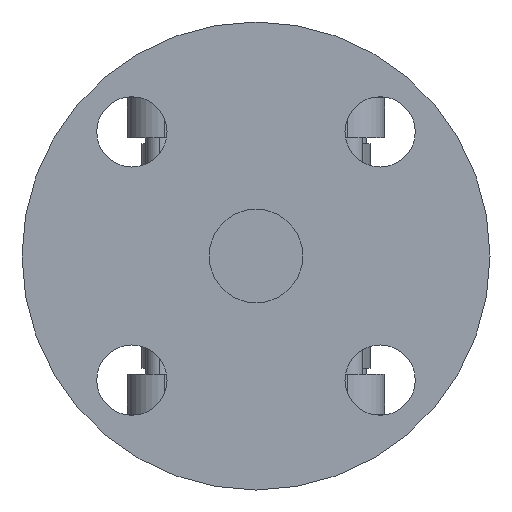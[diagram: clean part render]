
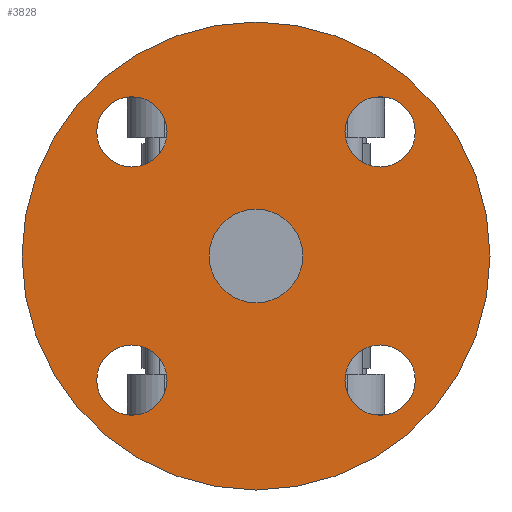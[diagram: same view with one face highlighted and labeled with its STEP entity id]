
A CAD part, left-side view. The second image highlights one B-rep face of the part: STEP entity #3828.
In plain terms, the highlighted planar face has unit normal (-1, 0, 0).
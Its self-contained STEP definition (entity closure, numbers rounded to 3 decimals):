
#60 = EDGE_CURVE ( 'NONE', #1762, #4366, #571, .T. ) ;
#84 = AXIS2_PLACEMENT_3D ( 'NONE', #4827, #1047, #4385 ) ;
#120 = VERTEX_POINT ( 'NONE', #2300 ) ;
#164 = CIRCLE ( 'NONE', #3720, 7.5 ) ;
#225 = EDGE_CURVE ( 'NONE', #1792, #4310, #5246, .T. ) ;
#267 = AXIS2_PLACEMENT_3D ( 'NONE', #2220, #1325, #776 ) ;
#376 = CARTESIAN_POINT ( 'NONE',  ( -65., 26.517, 26.517 ) ) ;
#474 = VERTEX_POINT ( 'NONE', #5769 ) ;
#480 = EDGE_LOOP ( 'NONE', ( #4302, #616 ) ) ;
#534 = VERTEX_POINT ( 'NONE', #1393 ) ;
#571 = CIRCLE ( 'NONE', #5743, 50. ) ;
#594 = EDGE_CURVE ( 'NONE', #534, #3061, #2411, .T. ) ;
#616 = ORIENTED_EDGE ( 'NONE', *, *, #594, .F. ) ;
#632 = DIRECTION ( 'NONE',  ( 0., -1., 0. ) ) ;
#659 = AXIS2_PLACEMENT_3D ( 'NONE', #1593, #5977, #632 ) ;
#663 = DIRECTION ( 'NONE',  ( 0., -1., 0. ) ) ;
#767 = CIRCLE ( 'NONE', #267, 7.5 ) ;
#776 = DIRECTION ( 'NONE',  ( 0., 0., -1. ) ) ;
#786 = EDGE_CURVE ( 'NONE', #4366, #1762, #5049, .T. ) ;
#1047 = DIRECTION ( 'NONE',  ( -1., 0., 0. ) ) ;
#1125 = ORIENTED_EDGE ( 'NONE', *, *, #60, .T. ) ;
#1143 = DIRECTION ( 'NONE',  ( -1., 0., 0. ) ) ;
#1202 = CARTESIAN_POINT ( 'NONE',  ( -65., 0., 0. ) ) ;
#1325 = DIRECTION ( 'NONE',  ( -1., 0., 0. ) ) ;
#1338 = CARTESIAN_POINT ( 'NONE',  ( -65., 19.017, -26.517 ) ) ;
#1365 = CARTESIAN_POINT ( 'NONE',  ( -65., -50., 0. ) ) ;
#1371 = AXIS2_PLACEMENT_3D ( 'NONE', #2480, #3567, #663 ) ;
#1393 = CARTESIAN_POINT ( 'NONE',  ( -65., -19.017, 26.517 ) ) ;
#1438 = ORIENTED_EDGE ( 'NONE', *, *, #786, .T. ) ;
#1441 = EDGE_CURVE ( 'NONE', #4310, #1792, #5259, .T. ) ;
#1457 = VERTEX_POINT ( 'NONE', #2981 ) ;
#1474 = EDGE_LOOP ( 'NONE', ( #3999, #1836 ) ) ;
#1544 = ORIENTED_EDGE ( 'NONE', *, *, #225, .F. ) ;
#1593 = CARTESIAN_POINT ( 'NONE',  ( -65., 26.517, -26.517 ) ) ;
#1661 = DIRECTION ( 'NONE',  ( -1., 0., 0. ) ) ;
#1753 = CARTESIAN_POINT ( 'NONE',  ( -65., 0., 0. ) ) ;
#1762 = VERTEX_POINT ( 'NONE', #1365 ) ;
#1792 = VERTEX_POINT ( 'NONE', #4000 ) ;
#1836 = ORIENTED_EDGE ( 'NONE', *, *, #5210, .F. ) ;
#1848 = CARTESIAN_POINT ( 'NONE',  ( -65., -26.517, 26.517 ) ) ;
#1888 = AXIS2_PLACEMENT_3D ( 'NONE', #1202, #5924, #5009 ) ;
#2057 = FACE_BOUND ( 'NONE', #480, .T. ) ;
#2215 = AXIS2_PLACEMENT_3D ( 'NONE', #3332, #3930, #4846 ) ;
#2220 = CARTESIAN_POINT ( 'NONE',  ( -65., 26.517, 26.517 ) ) ;
#2300 = CARTESIAN_POINT ( 'NONE',  ( -65., 34.017, 26.517 ) ) ;
#2319 = DIRECTION ( 'NONE',  ( -1., 0., 0. ) ) ;
#2376 = EDGE_LOOP ( 'NONE', ( #4447, #3897 ) ) ;
#2395 = DIRECTION ( 'NONE',  ( 0., 0., 1. ) ) ;
#2411 = CIRCLE ( 'NONE', #2215, 7.5 ) ;
#2480 = CARTESIAN_POINT ( 'NONE',  ( -65., 26.517, -26.517 ) ) ;
#2522 = CIRCLE ( 'NONE', #5056, 7.5 ) ;
#2551 = DIRECTION ( 'NONE',  ( 0., -1., 0. ) ) ;
#2573 = EDGE_CURVE ( 'NONE', #5973, #474, #4517, .T. ) ;
#2616 = DIRECTION ( 'NONE',  ( 0., -1., 0. ) ) ;
#2624 = EDGE_CURVE ( 'NONE', #474, #5973, #3906, .T. ) ;
#2952 = CARTESIAN_POINT ( 'NONE',  ( -65., 0., 0. ) ) ;
#2966 = VERTEX_POINT ( 'NONE', #4299 ) ;
#2981 = CARTESIAN_POINT ( 'NONE',  ( -65., -34.017, -26.517 ) ) ;
#3061 = VERTEX_POINT ( 'NONE', #4557 ) ;
#3132 = ORIENTED_EDGE ( 'NONE', *, *, #4678, .F. ) ;
#3136 = DIRECTION ( 'NONE',  ( 0., -1., 0. ) ) ;
#3293 = DIRECTION ( 'NONE',  ( 0., 0., -1. ) ) ;
#3332 = CARTESIAN_POINT ( 'NONE',  ( -65., -26.517, 26.517 ) ) ;
#3388 = CARTESIAN_POINT ( 'NONE',  ( -65., 19.017, 26.517 ) ) ;
#3522 = FACE_BOUND ( 'NONE', #1474, .T. ) ;
#3542 = AXIS2_PLACEMENT_3D ( 'NONE', #2952, #4889, #2551 ) ;
#3567 = DIRECTION ( 'NONE',  ( -1., 0., 0. ) ) ;
#3612 = CARTESIAN_POINT ( 'NONE',  ( -65., 0., 0. ) ) ;
#3720 = AXIS2_PLACEMENT_3D ( 'NONE', #376, #2319, #3293 ) ;
#3825 = AXIS2_PLACEMENT_3D ( 'NONE', #6029, #1143, #4952 ) ;
#3828 = ADVANCED_FACE ( 'NONE', ( #4473, #2057, #3522, #4092, #5555, #3997 ), #5492, .F. ) ;
#3897 = ORIENTED_EDGE ( 'NONE', *, *, #2624, .F. ) ;
#3906 = CIRCLE ( 'NONE', #1371, 7.5 ) ;
#3930 = DIRECTION ( 'NONE',  ( -1., 0., 0. ) ) ;
#3997 = FACE_OUTER_BOUND ( 'NONE', #6210, .T. ) ;
#3999 = ORIENTED_EDGE ( 'NONE', *, *, #5586, .F. ) ;
#4000 = CARTESIAN_POINT ( 'NONE',  ( -65., 10., 0. ) ) ;
#4032 = AXIS2_PLACEMENT_3D ( 'NONE', #4801, #4392, #2395 ) ;
#4092 = FACE_BOUND ( 'NONE', #2376, .T. ) ;
#4293 = DIRECTION ( 'NONE',  ( 0., 1., 0. ) ) ;
#4299 = CARTESIAN_POINT ( 'NONE',  ( -65., -19.017, -26.517 ) ) ;
#4302 = ORIENTED_EDGE ( 'NONE', *, *, #5459, .F. ) ;
#4310 = VERTEX_POINT ( 'NONE', #4798 ) ;
#4366 = VERTEX_POINT ( 'NONE', #4927 ) ;
#4385 = DIRECTION ( 'NONE',  ( 0., 0., 1. ) ) ;
#4392 = DIRECTION ( 'NONE',  ( -1., 0., 0. ) ) ;
#4447 = ORIENTED_EDGE ( 'NONE', *, *, #2573, .F. ) ;
#4454 = EDGE_CURVE ( 'NONE', #120, #4768, #767, .T. ) ;
#4473 = FACE_BOUND ( 'NONE', #5015, .T. ) ;
#4517 = CIRCLE ( 'NONE', #659, 7.5 ) ;
#4557 = CARTESIAN_POINT ( 'NONE',  ( -65., -34.017, 26.517 ) ) ;
#4678 = EDGE_CURVE ( 'NONE', #4768, #120, #164, .T. ) ;
#4730 = CIRCLE ( 'NONE', #4032, 7.5 ) ;
#4768 = VERTEX_POINT ( 'NONE', #3388 ) ;
#4798 = CARTESIAN_POINT ( 'NONE',  ( -65., -10., 0. ) ) ;
#4801 = CARTESIAN_POINT ( 'NONE',  ( -65., -26.517, -26.517 ) ) ;
#4827 = CARTESIAN_POINT ( 'NONE',  ( -65., -26.517, -26.517 ) ) ;
#4846 = DIRECTION ( 'NONE',  ( 0., 1., 0. ) ) ;
#4889 = DIRECTION ( 'NONE',  ( -1., 0., 0. ) ) ;
#4927 = CARTESIAN_POINT ( 'NONE',  ( -65., 50., 0. ) ) ;
#4929 = EDGE_LOOP ( 'NONE', ( #5263, #1544 ) ) ;
#4952 = DIRECTION ( 'NONE',  ( 0., -1., 0. ) ) ;
#5009 = DIRECTION ( 'NONE',  ( 0., 1., 0. ) ) ;
#5015 = EDGE_LOOP ( 'NONE', ( #3132, #6090 ) ) ;
#5049 = CIRCLE ( 'NONE', #5852, 50. ) ;
#5056 = AXIS2_PLACEMENT_3D ( 'NONE', #1848, #5603, #4293 ) ;
#5210 = EDGE_CURVE ( 'NONE', #2966, #1457, #4730, .T. ) ;
#5246 = CIRCLE ( 'NONE', #3825, 10. ) ;
#5259 = CIRCLE ( 'NONE', #3542, 10. ) ;
#5263 = ORIENTED_EDGE ( 'NONE', *, *, #1441, .F. ) ;
#5366 = CIRCLE ( 'NONE', #84, 7.5 ) ;
#5459 = EDGE_CURVE ( 'NONE', #3061, #534, #2522, .T. ) ;
#5492 = PLANE ( 'NONE',  #1888 ) ;
#5554 = DIRECTION ( 'NONE',  ( -1., 0., 0. ) ) ;
#5555 = FACE_BOUND ( 'NONE', #4929, .T. ) ;
#5586 = EDGE_CURVE ( 'NONE', #1457, #2966, #5366, .T. ) ;
#5603 = DIRECTION ( 'NONE',  ( -1., 0., 0. ) ) ;
#5743 = AXIS2_PLACEMENT_3D ( 'NONE', #1753, #1661, #2616 ) ;
#5769 = CARTESIAN_POINT ( 'NONE',  ( -65., 34.017, -26.517 ) ) ;
#5852 = AXIS2_PLACEMENT_3D ( 'NONE', #3612, #5554, #3136 ) ;
#5924 = DIRECTION ( 'NONE',  ( 1., 0., 0. ) ) ;
#5973 = VERTEX_POINT ( 'NONE', #1338 ) ;
#5977 = DIRECTION ( 'NONE',  ( -1., 0., 0. ) ) ;
#6029 = CARTESIAN_POINT ( 'NONE',  ( -65., 0., 0. ) ) ;
#6090 = ORIENTED_EDGE ( 'NONE', *, *, #4454, .F. ) ;
#6210 = EDGE_LOOP ( 'NONE', ( #1125, #1438 ) ) ;
